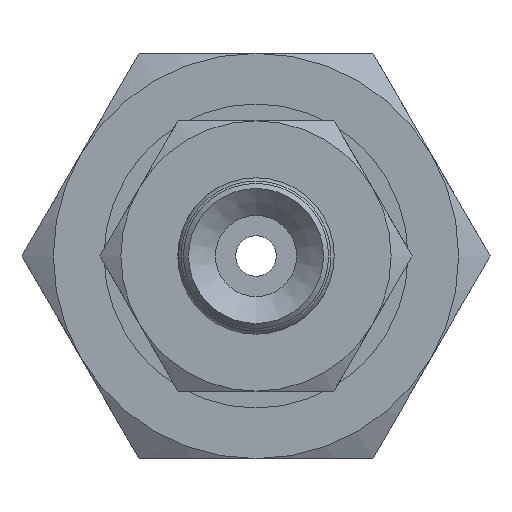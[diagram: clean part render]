
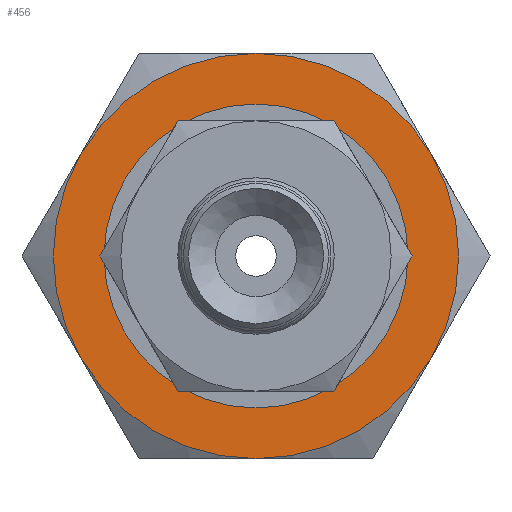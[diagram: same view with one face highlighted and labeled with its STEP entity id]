
A CAD part, front view. The second image highlights one B-rep face of the part: STEP entity #456.
In plain terms, the highlighted planar face has unit normal (0, -1, 0) as drawn and (-1, 0, 0) by its records, which use the part's own axes.
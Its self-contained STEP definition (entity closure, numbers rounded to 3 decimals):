
#456=ADVANCED_FACE('',(#633,#634),#635,.F.);
#633=FACE_BOUND('',#883,.T.);
#634=FACE_OUTER_BOUND('',#884,.T.);
#635=PLANE('',#885);
#883=EDGE_LOOP('',(#1410));
#884=EDGE_LOOP('',(#1411,#1412,#1413,#1414,#1415,#1416));
#885=AXIS2_PLACEMENT_3D('',#1417,#1418,#1419);
#1410=ORIENTED_EDGE('',*,*,#1791,.T.);
#1411=ORIENTED_EDGE('',*,*,#1784,.F.);
#1412=ORIENTED_EDGE('',*,*,#1760,.F.);
#1413=ORIENTED_EDGE('',*,*,#1752,.F.);
#1414=ORIENTED_EDGE('',*,*,#1792,.F.);
#1415=ORIENTED_EDGE('',*,*,#1780,.F.);
#1416=ORIENTED_EDGE('',*,*,#1781,.F.);
#1417=CARTESIAN_POINT('',(0.,0.0,0.0));
#1418=DIRECTION('',(1.0,0.0,0.0));
#1419=DIRECTION('',(0.0,1.0,0.0));
#1752=EDGE_CURVE('',#1992,#1993,#1994,.T.);
#1760=EDGE_CURVE('',#1993,#2007,#2008,.T.);
#1780=EDGE_CURVE('',#2040,#2029,#2042,.T.);
#1781=EDGE_CURVE('',#2043,#2040,#2044,.T.);
#1784=EDGE_CURVE('',#2007,#2043,#2048,.T.);
#1791=EDGE_CURVE('',#2055,#2055,#2056,.T.);
#1792=EDGE_CURVE('',#2029,#1992,#2057,.T.);
#1992=VERTEX_POINT('',#2388);
#1993=VERTEX_POINT('',#2389);
#1994=CIRCLE('',#2390,6.0);
#2007=VERTEX_POINT('',#2455);
#2008=CIRCLE('',#2456,6.0);
#2029=VERTEX_POINT('',#2550);
#2040=VERTEX_POINT('',#2621);
#2042=CIRCLE('',#2633,6.0);
#2043=VERTEX_POINT('',#2634);
#2044=CIRCLE('',#2635,6.0);
#2048=CIRCLE('',#2659,6.0);
#2055=VERTEX_POINT('',#2696);
#2056=CIRCLE('',#2697,4.0);
#2057=CIRCLE('',#2698,6.0);
#2388=CARTESIAN_POINT('',(0.,-5.196,-3.0));
#2389=CARTESIAN_POINT('',(0.,0.0,-6.0));
#2390=AXIS2_PLACEMENT_3D('',#2922,#2923,#2924);
#2455=CARTESIAN_POINT('',(0.,5.196,-3.0));
#2456=AXIS2_PLACEMENT_3D('',#2927,#2928,#2929);
#2550=CARTESIAN_POINT('',(0.,-5.196,3.0));
#2621=CARTESIAN_POINT('',(0.,0.0,6.0));
#2633=AXIS2_PLACEMENT_3D('',#2939,#2940,#2941);
#2634=CARTESIAN_POINT('',(0.,5.196,3.0));
#2635=AXIS2_PLACEMENT_3D('',#2942,#2943,#2944);
#2659=AXIS2_PLACEMENT_3D('',#2945,#2946,#2947);
#2696=CARTESIAN_POINT('',(0.,0.0,-4.0));
#2697=AXIS2_PLACEMENT_3D('',#2957,#2958,#2959);
#2698=AXIS2_PLACEMENT_3D('',#2960,#2961,#2962);
#2922=CARTESIAN_POINT('',(0.,0.0,0.0));
#2923=DIRECTION('',(1.0,0.0,0.0));
#2924=DIRECTION('',(0.0,0.0,-1.0));
#2927=CARTESIAN_POINT('',(0.,0.0,0.0));
#2928=DIRECTION('',(1.0,0.0,0.0));
#2929=DIRECTION('',(0.0,0.0,-1.0));
#2939=CARTESIAN_POINT('',(0.,0.0,0.0));
#2940=DIRECTION('',(1.0,0.0,0.0));
#2941=DIRECTION('',(0.0,0.0,-1.0));
#2942=CARTESIAN_POINT('',(0.,0.0,0.0));
#2943=DIRECTION('',(1.0,0.0,0.0));
#2944=DIRECTION('',(0.0,0.0,-1.0));
#2945=CARTESIAN_POINT('',(0.,0.0,0.0));
#2946=DIRECTION('',(1.0,0.0,0.0));
#2947=DIRECTION('',(0.0,0.0,-1.0));
#2957=CARTESIAN_POINT('',(0.,0.0,0.0));
#2958=DIRECTION('',(1.0,0.0,0.0));
#2959=DIRECTION('',(0.0,0.0,-1.0));
#2960=CARTESIAN_POINT('',(0.,0.0,0.0));
#2961=DIRECTION('',(1.0,0.0,0.0));
#2962=DIRECTION('',(0.0,0.0,-1.0));
